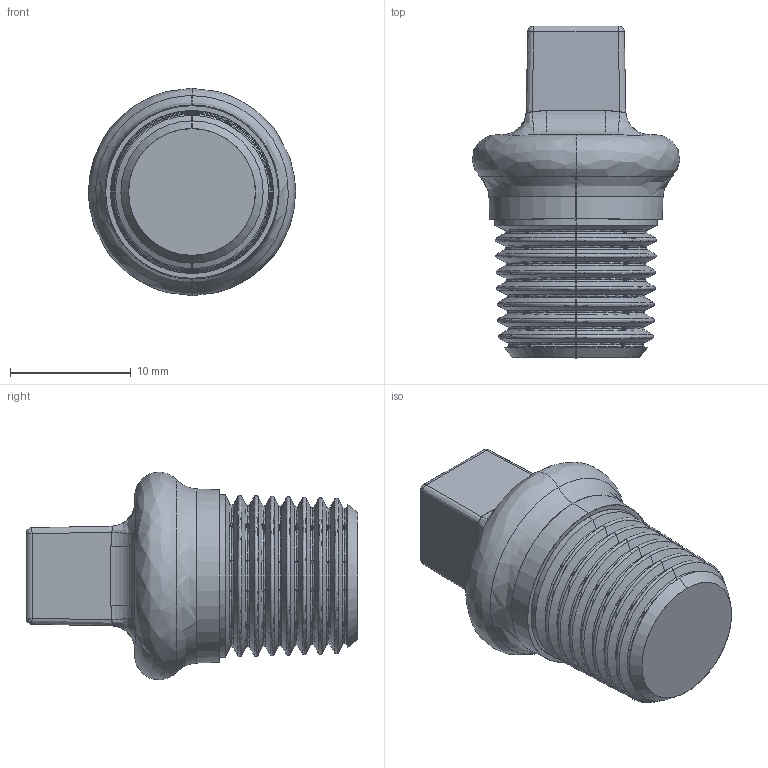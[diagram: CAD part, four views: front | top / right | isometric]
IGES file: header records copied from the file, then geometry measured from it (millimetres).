
Start section: SolidWorks IGES file using analytic representation for surfaces
Global section: file name: C:\Users\Joel Rosa\Desktop\Tubulação\12-03-OK\12-03-002.IGS; native system: SolidWorks 2011; preprocessor: SolidWorks 2011; author: Joel Rosa; date: 121203.234346; units: millimetre
Bounding box: 17.19 x 27.5 x 17.2 mm (x, y, z)
Surface area: 1644 mm2 (no closed solid volume)
Topology: 0 solids, 0 shells, 155 faces, 844 edges, 844 vertices
Faces by surface type: bspline 101, revolution 54
